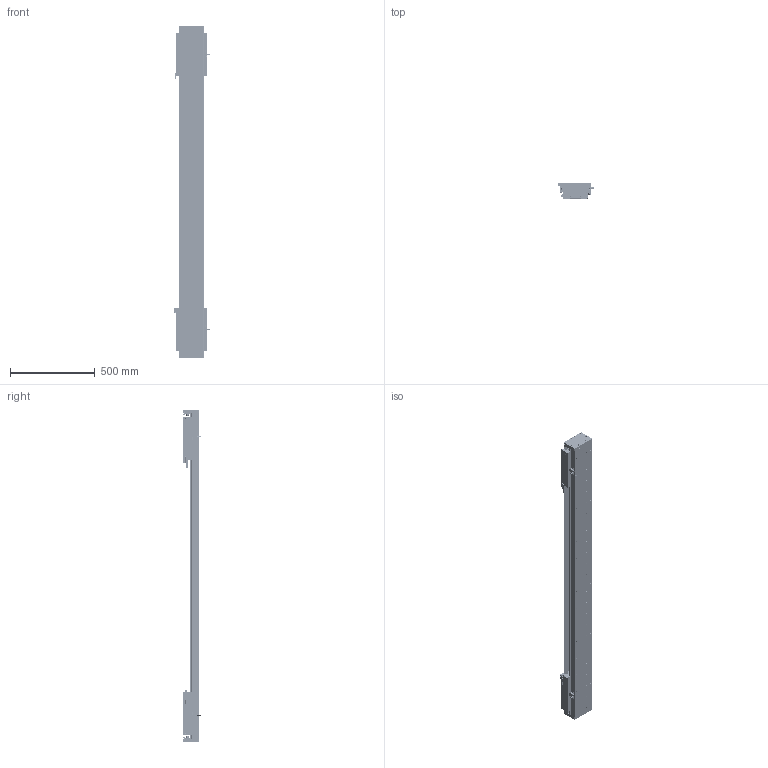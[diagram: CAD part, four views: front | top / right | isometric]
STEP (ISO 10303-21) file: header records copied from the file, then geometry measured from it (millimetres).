
FILE_DESCRIPTION (( 'STEP AP203' ), '1' );
FILE_NAME ('DA-C145-2-C3-T1340-C010-0.2 眻盄萇儂.STEP', '2025-08-13T10:20:44', ( '' ), ( '' ), 'SwSTEP 2.0', 'SolidWorks 2019', '' );
FILE_SCHEMA (( 'CONFIG_CONTROL_DESIGN' ));
Length unit declared in the file: millimetre
Products named in the file (38): 葩璃 DA95-HXJ-00 遣喳砎蝶^DA-C145-2-C3-T-C010-0.2; IU-CU145-L-00 菁釱(L1920); 葩璃 CU145 詩湍郪璃^DA-C145-2-C3-T-C010-0.2; 葩璃 DA95-GT-T-00^IU-CU145-L 菁釱絳寢; 复件 DA145-C3-YB-B-00 压板B^CU145-W 滚珠滑台; 复件 DA145-DG 钢带端盖^复件 CU145 钢带组件_DA-C145-2-C3-T-C010-0.2; 复件 内六角平端紧定螺钉 GB.T77-2000 M5×10^CU145-W 滚珠滑台; 复件 DA146 钢带拉块^复件 CU145 钢带组件_DA-C145-2-C3-T-C010-0.2; DKW-KGZ-ZJ-00 中间光电开关支架; 葩璃 PM-Y65^DA-C145-2-C3-T-C010-0.2; 复件 纯铜油杯 6x6mm^CU145-W 滚珠滑台; DKW-GYP-ZJ-00 笢潔嫖萇覜茼え; 复件 DA95-MFP-01 密封片^CU145-W 滚珠滑台; 葩璃 CKMA01-W060-TRL^DA-C145-2-C3-T-C010-0.2; TAY01-M8; CU145-W-00 珨极趙賑雄怢啣; 复件 DA145 钢带^复件 CU145 钢带组件_DA-C145-2-C3-T-C010-0.2; CU145-W-00 珨极趙賑雄怢啣-1; IU-CU145-L 菁釱絳寢; 葩璃 DA145-C3-DP-A-00 菜えA^CU145-W 幗紩賑怢; CU145-W 幗紩賑怢; 葩璃 DA145-C3-DP-B-00 菜えB^CU145-W 幗紩賑怢; CU145-W 幗紩賑怢-1; 葩璃 DMA-010-0.2 黍杅芛^DA-C145-2-C3-T-C010-0.2; 葩璃 PM-T45^DA-C145-2-C3-T-C010-0.2; 复件 DA146 钢带垫块^复件 CU145 钢带组件_DA-C145-2-C3-T-C010-0.2; 葩璃 鞠褒情蹟譫 M3^DA-C145-2-C3-T-C010-0.2; 葩璃 CKM03-W060-C1C2-TP-0.2^DA-C145-2-C3-T-C010-0.2; 复件 DA145-C3-DK-00 挡块^CU145-W 滚珠滑台; DKW168-HXJ-ZJ-00 笢潔滅袉砎蝶; 复件 DA95-HK-GT-00 滑块钢轨^CU145-W-00 一体化滑动台板; DA-C145-2-C3-T1340-C010-0.2 眻盄萇儂; 复件 半圆头内六角螺钉 M3×6^CU145-W 滚珠滑台; 66245-CU145-HT-W-00 賑雄怢啣(3D芞祧)(00); 复件 DA95-DB-00  挡板^CU145-W 滚珠滑台; 葩璃 XD-U-02L 棠掑喜^DA-C145-2-C3-T-C010-0.2; 复件 DA145-C3-YB-A-00 压板A^CU145-W 滚珠滑台; 复件 DA145-GYP-00 光电感应片^DA-C145-2-C3-T-C010-0.2
Assembly tree (180 placements, depth 4):
  DA-C145-2-C3-T1340-C010-0.2 眻盄萇儂
    IU-CU145-L 菁釱絳寢
      IU-CU145-L-00 菁釱(L1920)
      葩璃 DA95-GT-T-00^IU-CU145-L 菁釱絳寢  x4
    葩璃 CU145 詩湍郪璃^DA-C145-2-C3-T-C010-0.2
      复件 DA145-DG 钢带端盖^复件 CU145 钢带组件_DA-C145-2-C3-T-C010-0.2  x2
      复件 DA146 钢带拉块^复件 CU145 钢带组件_DA-C145-2-C3-T-C010-0.2  x2
      复件 DA146 钢带垫块^复件 CU145 钢带组件_DA-C145-2-C3-T-C010-0.2  x2
      复件 DA145 钢带^复件 CU145 钢带组件_DA-C145-2-C3-T-C010-0.2
    CU145-W 幗紩賑怢
      CU145-W-00 珨极趙賑雄怢啣
        66245-CU145-HT-W-00 賑雄怢啣(3D芞祧)(00)
        复件 DA95-HK-GT-00 滑块钢轨^CU145-W-00 一体化滑动台板  x8
      复件 DA95-MFP-01 密封片^CU145-W 滚珠滑台  x8
      复件 DA95-DB-00  挡板^CU145-W 滚珠滑台  x8
      复件 内六角平端紧定螺钉 GB.T77-2000 M5×10^CU145-W 滚珠滑台  x4
      复件 纯铜油杯 6x6mm^CU145-W 滚珠滑台  x4
      复件 半圆头内六角螺钉 M3×6^CU145-W 滚珠滑台  x16
      复件 DA145-C3-DK-00 挡块^CU145-W 滚珠滑台  x4
      葩璃 DA145-C3-DP-B-00 菜えB^CU145-W 幗紩賑怢  x2
      复件 DA145-C3-YB-B-00 压板B^CU145-W 滚珠滑台  x2
      葩璃 DA145-C3-DP-A-00 菜えA^CU145-W 幗紩賑怢  x3
      复件 DA145-C3-YB-A-00 压板A^CU145-W 滚珠滑台  x3
      TAY01-M8  x4
    CU145-W 幗紩賑怢-1
      CU145-W-00 珨极趙賑雄怢啣-1
        66245-CU145-HT-W-00 賑雄怢啣(3D芞祧)(00)
        复件 DA95-HK-GT-00 滑块钢轨^CU145-W-00 一体化滑动台板  x8
      复件 DA95-MFP-01 密封片^CU145-W 滚珠滑台  x8
      复件 DA95-DB-00  挡板^CU145-W 滚珠滑台  x8
      复件 内六角平端紧定螺钉 GB.T77-2000 M5×10^CU145-W 滚珠滑台  x4
      复件 纯铜油杯 6x6mm^CU145-W 滚珠滑台  x4
      复件 半圆头内六角螺钉 M3×6^CU145-W 滚珠滑台  x16
      复件 DA145-C3-DK-00 挡块^CU145-W 滚珠滑台  x4
      葩璃 DA145-C3-DP-B-00 菜えB^CU145-W 幗紩賑怢  x2
      复件 DA145-C3-YB-B-00 压板B^CU145-W 滚珠滑台  x2
      葩璃 DA145-C3-DP-A-00 菜えA^CU145-W 幗紩賑怢  x3
      复件 DA145-C3-YB-A-00 压板A^CU145-W 滚珠滑台  x3
      TAY01-M8  x4
    葩璃 CKMA01-W060-TRL^DA-C145-2-C3-T-C010-0.2
    葩璃 PM-T45^DA-C145-2-C3-T-C010-0.2  x4
    葩璃 XD-U-02L 棠掑喜^DA-C145-2-C3-T-C010-0.2
    葩璃 DA95-HXJ-00 遣喳砎蝶^DA-C145-2-C3-T-C010-0.2  x4
    葩璃 CKM03-W060-C1C2-TP-0.2^DA-C145-2-C3-T-C010-0.2  x2
    葩璃 DMA-010-0.2 黍杅芛^DA-C145-2-C3-T-C010-0.2  x2
    复件 DA145-GYP-00 光电感应片^DA-C145-2-C3-T-C010-0.2  x2
    DKW-GYP-ZJ-00 笢潔嫖萇覜茼え
    DKW-KGZ-ZJ-00 中间光电开关支架
    葩璃 PM-Y65^DA-C145-2-C3-T-C010-0.2
    葩璃 鞠褒情蹟譫 M3^DA-C145-2-C3-T-C010-0.2  x8
    DKW168-HXJ-ZJ-00 笢潔滅袉砎蝶
Bounding box: 213.7 x 108.45 x 1956 mm (x, y, z)
Volume: 11714688.9 mm3; surface area: 3577338.9 mm2
Topology: 175 solids, 239 shells, 7307 faces, 19383 edges, 11941 vertices
Faces by surface type: cylinder 3028, plane 2939, cone 1184, torus 140, sphere 8, bspline 8
Entity records: 124514 total; most frequent: CARTESIAN_POINT 33578, ORIENTED_EDGE 17452, DIRECTION 17119, EDGE_CURVE 8726, AXIS2_PLACEMENT_3D 6273, VERTEX_POINT 5640, LINE 4573, VECTOR 4573
